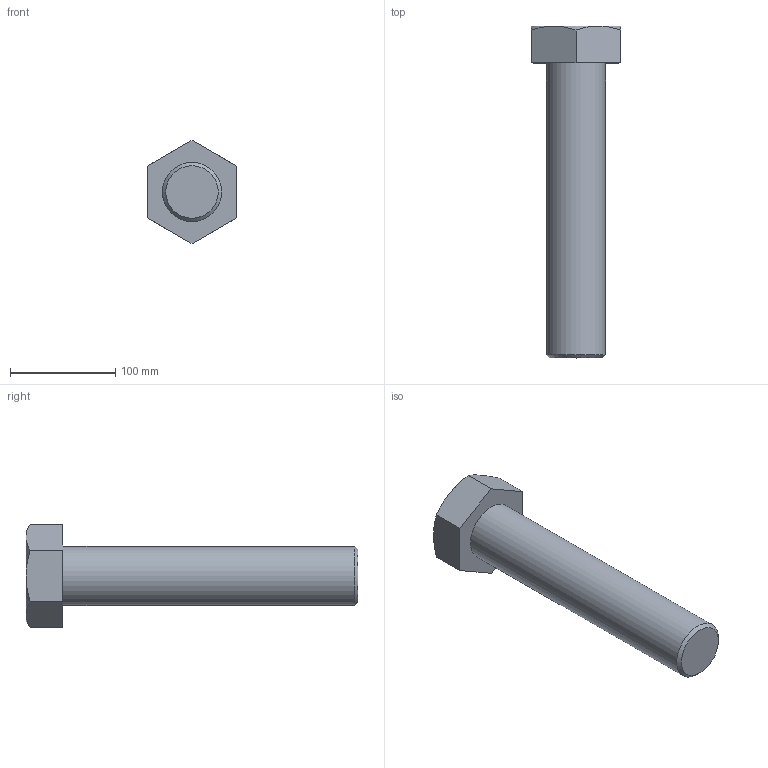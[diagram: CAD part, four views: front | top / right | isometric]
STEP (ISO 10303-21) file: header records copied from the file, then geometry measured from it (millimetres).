
FILE_DESCRIPTION(/* description */ (''),/* implementation_level */ '2;1');
FILE_NAME(/* name */ 'C:\Users\unitec\Documents\Inventor\各種小物\JIS\JIS B 1180 六角ボルト 等級C\hbc56\M56x280.stp',/* time_stamp */ '2015-02-13T15:00:24+09:00',/* author */ ('unitec'),/* organization */ (''),/* preprocessor_version */ 'ST-DEVELOPER v15.2',/* originating_system */ 'Autodesk Inventor 2014',/* authorisation */ '');
FILE_SCHEMA (('AUTOMOTIVE_DESIGN { 1 0 10303 214 3 1 1 }'));
Length unit declared in the file: millimetre
Products named in the file (1): M56x280
Bounding box: 85 x 315 x 98.15 mm (x, y, z)
Volume: 907173.2 mm3; surface area: 71458 mm2
Topology: 1 solids, 1 shells, 17 faces, 35 edges, 21 vertices
Faces by surface type: plane 9, cone 7, cylinder 1
Full cylindrical faces by diameter (mm): 56 x1
Entity records: 441 total; most frequent: CARTESIAN_POINT 96, ORIENTED_EDGE 66, DIRECTION 66, EDGE_CURVE 33, AXIS2_PLACEMENT_3D 27, VERTEX_POINT 21, EDGE_LOOP 20, ADVANCED_FACE 17
